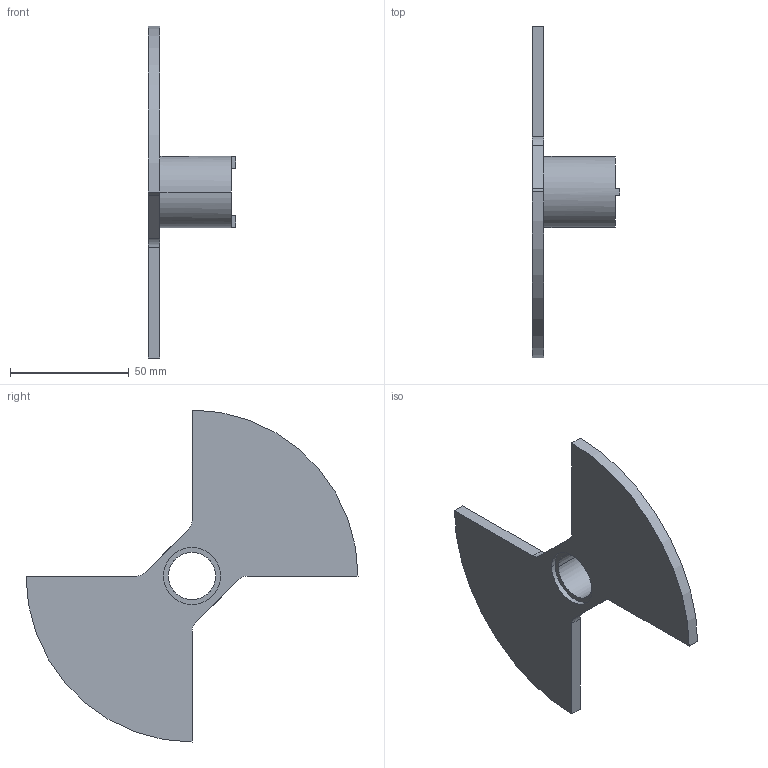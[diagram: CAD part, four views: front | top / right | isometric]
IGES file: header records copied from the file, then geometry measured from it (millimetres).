
Global section: file name: No Iges File Name specified; native system: AutoDesk Inventor R11.0; preprocessor: AutoDesk Inventor Iges Exporter R11.0; author: No Author specified; organization: No Organization specified; date: 20061013.083552; units: millimetre
Bounding box: 37 x 140 x 140 mm (x, y, z)
Volume: 50739.1 mm3; surface area: 23156.8 mm2
Topology: 1 solids, 1 shells, 30 faces, 82 edges, 54 vertices
Faces by surface type: plane 18, revolution 8, cylinder 4
